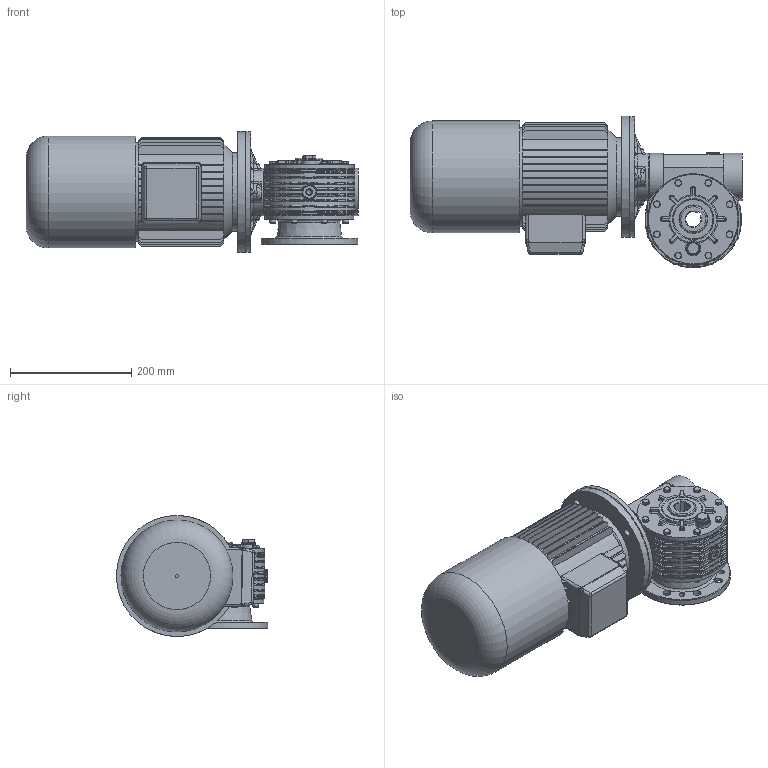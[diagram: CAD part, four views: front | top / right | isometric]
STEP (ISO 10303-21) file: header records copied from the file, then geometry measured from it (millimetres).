
FILE_DESCRIPTION((''),'2;1');
FILE_NAME('Y:\Archivi Inventor\Prog_01\GRAND_30\Figurini\MRV30 sito\90s autofrenante\MRV30_F2_90s_B5.stp','2013-02-06T11:12:28',('tech3'),(''),'Autodesk Inventor 2013','Autodesk Inventor 2013','');
FILE_SCHEMA(('AUTOMOTIVE_DESIGN { 1 0 10303 214 1 1 1 1 }'));
Length unit declared in the file: millimetre
Products named in the file (18): MRV30_90s_90L; MRV30; 0103001-A2 fig; 0103008.A1 fig F=25; PARAOLIO 45x65x10; RCA_52x7; Guarnizione 3_8 GAS; Tappo 3_8 GAS_esagn_incsst; 0103029; DIN EN 24017 M6 x 20; 0103028; 0103002-A0 fig; 0103003.A0 fig; DIN EN ISO 4762 M6 x 20; Tappo3_8 GAS; UNI 5931 M 8 x  25; 0103006; motori B5 brake 90S
Assembly tree (39 placements, depth 3):
  MRV30_90s_90L
    MRV30
      0103001-A2 fig
      0103008.A1 fig F=25
      PARAOLIO 45x65x10  x2
      RCA_52x7
      Guarnizione 3_8 GAS  x3
      Tappo 3_8 GAS_esagn_incsst  x2
      0103029  x2
      DIN EN 24017 M6 x 20  x8
      0103028
      0103002-A0 fig
      0103003.A0 fig
      DIN EN ISO 4762 M6 x 20  x8
      Tappo3_8 GAS
      UNI 5931 M 8 x  25  x4
    0103006
    motori B5 brake 90S
Bounding box: 548.4 x 249.68 x 199.97 mm (x, y, z)
Volume: 7082707.9 mm3; surface area: 1023697.5 mm2
Topology: 39 solids, 42 shells, 2086 faces, 5056 edges, 3027 vertices
Faces by surface type: plane 929, cylinder 655, torus 201, bspline 142, cone 119, sphere 40
Full cylindrical faces by diameter (mm): 2 x2, 4.917 x16, 5 x1, 6 x16, 6.5 x24, 6.647 x4, 7 x8, 8 x6, 8.5 x8, 8.88 x8, 9.5 x4, 10 x8, 11 x8, 11.5 x4, 13 x12, 13.046 x1, 14.95 x3, 16.3 x3, 16.5 x2, 22 x6, 24 x1, 25 x1, 43 x1, 45 x6, 45.76 x1, 50.881 x2, 52 x6, 55 x1, 60.5 x2, 65 x4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
Entity records: 59120 total; most frequent: CARTESIAN_POINT 18032, DIRECTION 8635, ORIENTED_EDGE 7998, EDGE_CURVE 3999, AXIS2_PLACEMENT_3D 3423, VERTEX_POINT 2541, EDGE_LOOP 2141, VECTOR 1789
